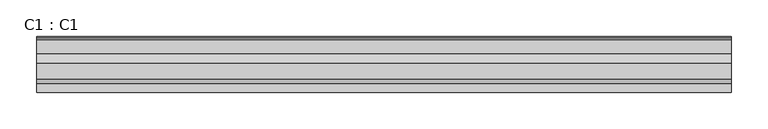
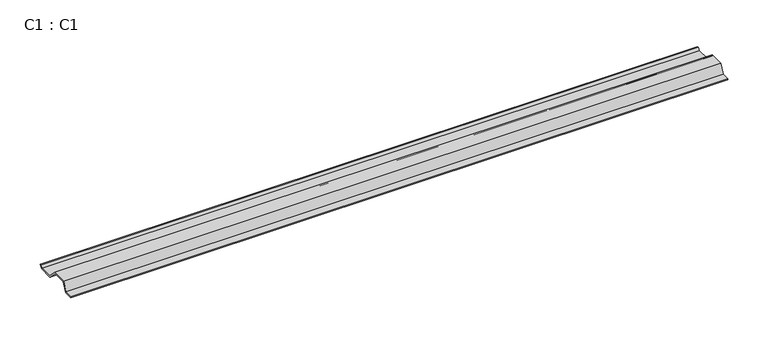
"""IFC4 building model written with IfcOpenShell, lengths in millimetres: proxy geometry, C1 : C1."""

from ifc_helpers import new_model, si_unit, frame, origin, place, context, project, spatial, polyline, outline, extrude, source, transform, mapped, element, save


def c1_c1_27504b22(model_context):
    return source(origin(), model_context, "Body", "SweptSolid", [
        extrude(outline(polyline([(-24.8328427, 1.2e-06), (-37.8328427, 13.0000012), (-57.9948698, 13.0000012), (-63.7828427, 1.2e-06), (-76.4828427, 1.2e-06), (-76.4828427, 1.4000012), (-64.6920133, 1.4000012), (-58.9040404, 14.4000012), (-37.170101, 14.4000012), (-24.170101, 1.4000012), (-4.979899, 1.4000012), (-1.979899, 4.4000012), (0.0, 4.4000012), (-4.4, 1.2e-06), (-24.8328427, 1.2e-06)])), frame((1.0, 0.0, 0.0), z_axis=(1.0, 0.0, 0.0), x_axis=(0.0, 1.0, 0.0)), (0.0, 0.0, 1.0), 948.0),
    ])


if __name__ == "__main__":
    model = new_model("IFC4")
    model_context = context("Model", 3, world=origin())
    ifc_project = project(units=[si_unit("LENGTHUNIT", "METRE", prefix="MILLI")], contexts=[model_context])
    site = spatial("IfcSite", under=ifc_project)
    building = spatial("IfcBuilding", under=site)
    placement = place(None, origin())
    c1_c1_shape = c1_c1_27504b22(model_context)
    element("IfcBuildingElementProxy", 1, Name="C1 : C1", ObjectType="C1 : C1", at=placement, inside=building, context=model_context, shape_type="MappedRepresentation", body=[
        mapped(c1_c1_shape, transform((0.0, 0.0, 0.0), x_axis=(1.0, 0.0, 0.0), y_axis=(0.0, 1.0, 0.0), z_axis=(0.0, 0.0, 1.0))),
    ])
    save(model, "model.ifc")
